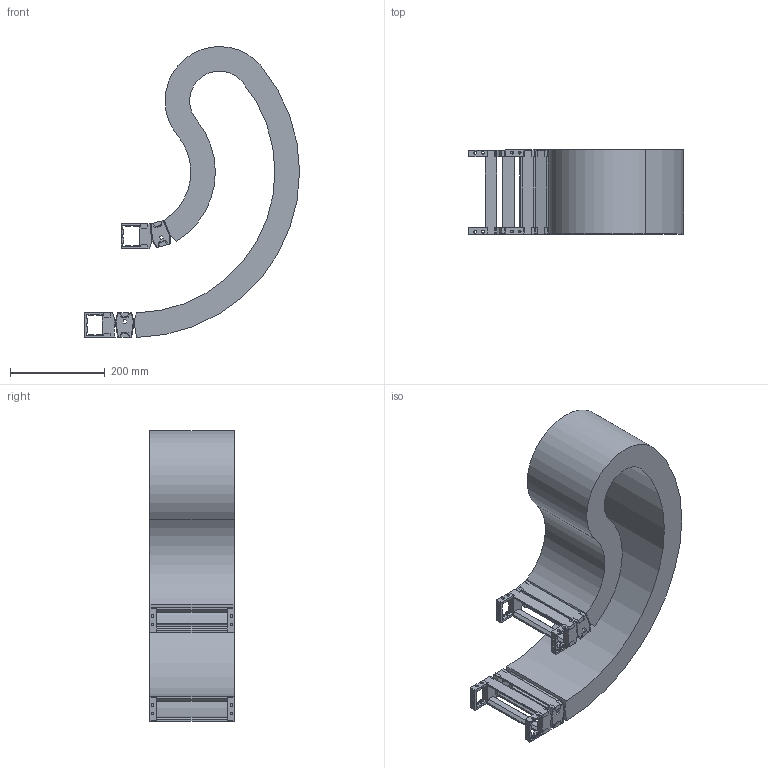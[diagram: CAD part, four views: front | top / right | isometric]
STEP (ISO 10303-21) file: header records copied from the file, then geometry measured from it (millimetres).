
FILE_DESCRIPTION( ( 'STEP AP214' ), '1' );
FILE_NAME( 'e:/temp/worker_62/temp/exporttempdir_7292_386_kzUDY/format_2/RV040CRA17818612070230340-001501890.0647.stp', '2021-07-26T15:25:44', ( 'License CC BY-ND 4.0' ), ( 'CADENAS' ), ' ', 'PARTsolutions', ' ' );
FILE_SCHEMA( ( 'AUTOMOTIVE_DESIGN { 1 0 10303 214 1 1 1 1 }' ) );
Length unit declared in the file: millimetre
Products named in the file (4): RV040CRA17818612070230340-001501890.0647; _RV040CRA17818612070230340-001501152.16-Chain; _RV040CR-SU-40-150; _RV040CR_FB-178
Assembly tree (5 placements, depth 2):
  RV040CRA17818612070230340-001501890.0647
    _RV040CRA17818612070230340-001501152.16-Chain
    _RV040CR-SU-40-150  x2
    _RV040CR_FB-178  x2
Bounding box: 455 x 178 x 615.45 mm (x, y, z)
Volume: 4518336.3 mm3; surface area: 1200387.8 mm2
Topology: 5 solids, 5 shells, 692 faces, 2020 edges, 1332 vertices
Faces by surface type: plane 524, cylinder 168
Full cylindrical faces by diameter (mm): 6 x24
Entity records: 14556 total; most frequent: CARTESIAN_POINT 2056, ORIENTED_EDGE 2036, DIRECTION 1930, EDGE_CURVE 1018, LINE 830, VECTOR 830, VERTEX_POINT 676, AXIS2_PLACEMENT_3D 550
